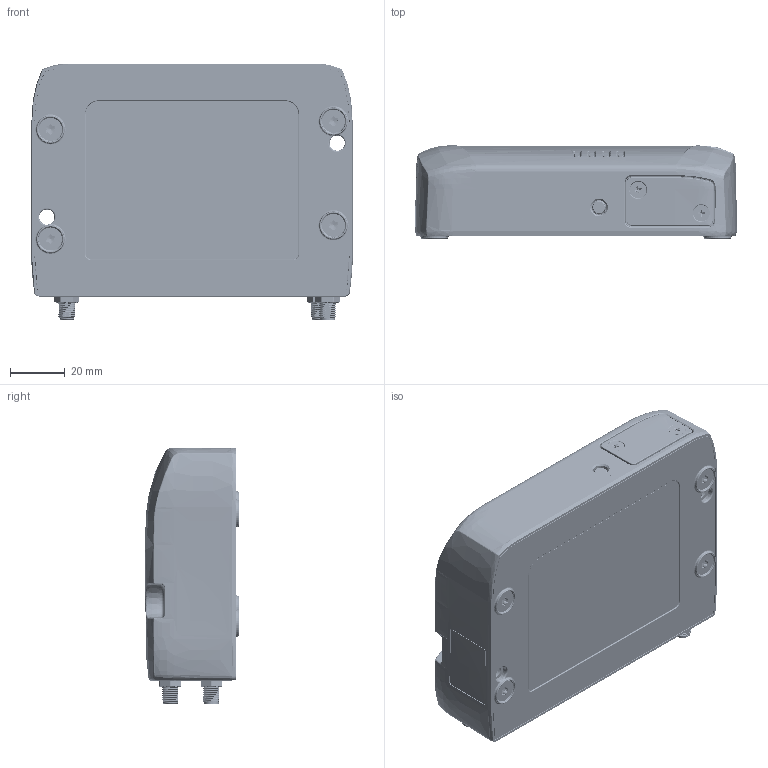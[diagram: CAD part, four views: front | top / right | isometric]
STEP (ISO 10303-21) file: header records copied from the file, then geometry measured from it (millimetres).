
FILE_DESCRIPTION((''),'2;1');
FILE_NAME('RIVIAN_ASSY_MASTER_ASM','2026-03-10T11:38:33',('jle'),('Sierra Wireless'),'CREO PARAMETRIC BY PTC INC, 2022124','CREO PARAMETRIC BY PTC INC, 2022124','');
FILE_SCHEMA(('AUTOMOTIVE_DESIGN { 1 0 10303 214 1 1 1 1 }'));
Products named in the file (29): 5308374; 5308219; RIVIAN-BRONCO_PCB_DV4_JUL162025; 12401977; RJ45-WMJK004-PA881G50-2-L3; TW3001WGR-2XNP5K-X5X_ASM; G85D1171X1XHHR-4FF; RIVIAN_PCA_MASTER_ASM; SMA_MAR212022; 5307735; 5308222; 5307286; 5308224; 5308233_GASKET; 5308233_PSA; 5308223_ASM; 5307745; 5307132_2X1-RJ45-GASKET; 5305508; 5305390; 5308225; 5308226; 5307485; 5307485_PSA; 5307485_ASM; RIVIAN_LABEL; RIVIAN_LABEL_SIDE; 5308299; RIVIAN_ASSY_MASTER_ASM
Assembly tree (41 placements, depth 3):
  RIVIAN_ASSY_MASTER_ASM
    5308374
    5308219
    RIVIAN_PCA_MASTER_ASM
      RIVIAN-BRONCO_PCB_DV4_JUL162025
      12401977
      RJ45-WMJK004-PA881G50-2-L3
      TW3001WGR-2XNP5K-X5X_ASM
      G85D1171X1XHHR-4FF  x2
    SMA_MAR212022  x3
    5307735  x3
    5308222
    5307286  x2
    5308223_ASM
      5308224
      5308233_GASKET
      5308233_PSA  x2
    5307745
    5307132_2X1-RJ45-GASKET
    5305508  x2
    5305390  x2
    5308225
    5308226
    5307485_ASM  x2
      5307485
      5307485_PSA
    RIVIAN_LABEL
    RIVIAN_LABEL_SIDE
    5308299  x4
Bounding box: 117.38 x 34.01 x 93.71 mm (x, y, z)
Volume: 112752.3 mm3; surface area: 110925 mm2
Topology: 39 solids, 67 shells, 15577 faces, 41664 edges, 26459 vertices
Faces by surface type: plane 8433, cylinder 3300, bspline 1800, extrusion 681, cone 658, torus 366, sphere 335, revolution 4
Entity records: 682296 total; most frequent: CARTESIAN_POINT 268563, ORIENTED_EDGE 71862, DIRECTION 59233, EDGE_CURVE 35931, VECTOR 24315, LINE 23634, PRESENTATION_STYLE_ASSIGNMENT 23580, STYLED_ITEM 23364
